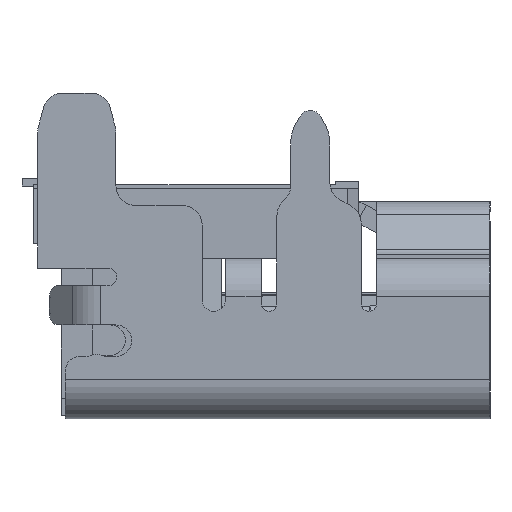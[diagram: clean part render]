
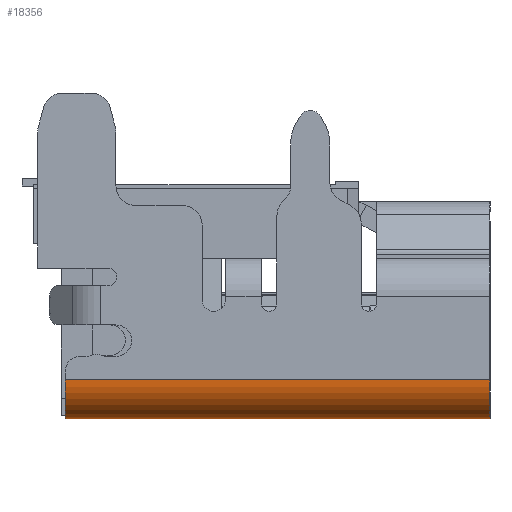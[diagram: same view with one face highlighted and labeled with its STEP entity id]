
A CAD part, left-side view. The second image highlights one B-rep face of the part: STEP entity #18356.
In plain terms, the highlighted cylindrical face has radius 1 mm (diameter 2 mm), a partial arc.
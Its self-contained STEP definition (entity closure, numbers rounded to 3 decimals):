
#258 = AXIS2_PLACEMENT_3D ( 'NONE', #14916, #30034, #35898 ) ;
#784 = DIRECTION ( 'NONE',  ( 0., -1., 0. ) ) ;
#1404 = DIRECTION ( 'NONE',  ( 0., 1., 0. ) ) ;
#2148 = CYLINDRICAL_SURFACE ( 'NONE', #56399, 1. ) ;
#2207 = ORIENTED_EDGE ( 'NONE', *, *, #33006, .T. ) ;
#3492 = ORIENTED_EDGE ( 'NONE', *, *, #63757, .T. ) ;
#4012 = EDGE_CURVE ( 'NONE', #33685, #61638, #22816, .T. ) ;
#6211 = VECTOR ( 'NONE', #784, 1000. ) ;
#6813 = CARTESIAN_POINT ( 'NONE',  ( -21.36, -6.059, -5.55 ) ) ;
#6976 = DIRECTION ( 'NONE',  ( 0., -1., 0. ) ) ;
#9910 = CARTESIAN_POINT ( 'NONE',  ( -22.36, -6.059, -4.55 ) ) ;
#12419 = VERTEX_POINT ( 'NONE', #67588 ) ;
#12832 = DIRECTION ( 'NONE',  ( -1., 0., 0. ) ) ;
#14916 = CARTESIAN_POINT ( 'NONE',  ( -21.36, 4.791, -4.55 ) ) ;
#17422 = VERTEX_POINT ( 'NONE', #6813 ) ;
#17646 = CARTESIAN_POINT ( 'NONE',  ( -22.36, 5.491, -4.55 ) ) ;
#18356 = ADVANCED_FACE ( 'NONE', ( #28314 ), #2148, .T. ) ;
#22816 = LINE ( 'NONE', #17646, #49074 ) ;
#23151 = CARTESIAN_POINT ( 'NONE',  ( -21.36, -11.559, -4.55 ) ) ;
#26650 = CARTESIAN_POINT ( 'NONE',  ( -22.36, 4.791, -4.55 ) ) ;
#27696 = CIRCLE ( 'NONE', #258, 1. ) ;
#28072 = ORIENTED_EDGE ( 'NONE', *, *, #4012, .F. ) ;
#28314 = FACE_OUTER_BOUND ( 'NONE', #46651, .T. ) ;
#30034 = DIRECTION ( 'NONE',  ( 0., -1., 0. ) ) ;
#33006 = EDGE_CURVE ( 'NONE', #17422, #61638, #38299, .T. ) ;
#33685 = VERTEX_POINT ( 'NONE', #26650 ) ;
#35898 = DIRECTION ( 'NONE',  ( -1., 0., 0. ) ) ;
#38155 = ORIENTED_EDGE ( 'NONE', *, *, #58805, .T. ) ;
#38299 = CIRCLE ( 'NONE', #65766, 1. ) ;
#46651 = EDGE_LOOP ( 'NONE', ( #2207, #28072, #38155, #3492 ) ) ;
#47904 = DIRECTION ( 'NONE',  ( -1., 0., 0. ) ) ;
#47945 = CARTESIAN_POINT ( 'NONE',  ( -21.36, 5.491, -5.55 ) ) ;
#49074 = VECTOR ( 'NONE', #6976, 1000. ) ;
#53759 = CARTESIAN_POINT ( 'NONE',  ( -21.36, -6.059, -4.55 ) ) ;
#56399 = AXIS2_PLACEMENT_3D ( 'NONE', #23151, #65151, #12832 ) ;
#58805 = EDGE_CURVE ( 'NONE', #33685, #12419, #27696, .T. ) ;
#61638 = VERTEX_POINT ( 'NONE', #9910 ) ;
#63757 = EDGE_CURVE ( 'NONE', #12419, #17422, #64109, .T. ) ;
#64109 = LINE ( 'NONE', #47945, #6211 ) ;
#65151 = DIRECTION ( 'NONE',  ( 0., 1., 0. ) ) ;
#65766 = AXIS2_PLACEMENT_3D ( 'NONE', #53759, #1404, #47904 ) ;
#67588 = CARTESIAN_POINT ( 'NONE',  ( -21.36, 4.791, -5.55 ) ) ;
